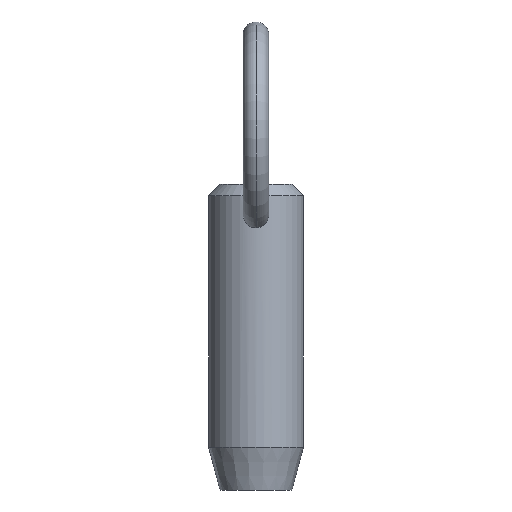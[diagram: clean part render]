
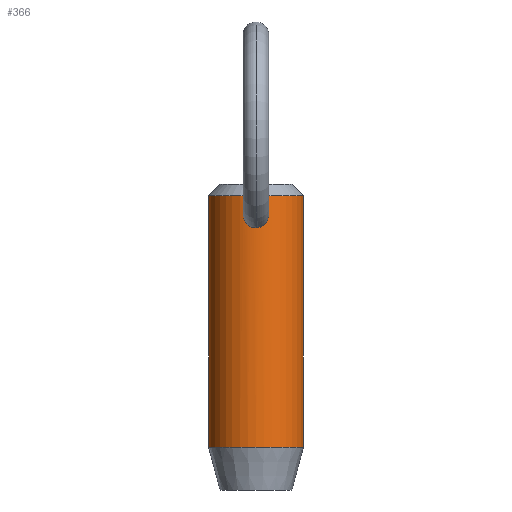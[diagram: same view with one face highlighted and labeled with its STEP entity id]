
A CAD part, front view. The second image highlights one B-rep face of the part: STEP entity #366.
In plain terms, the highlighted cylindrical face has radius 5.55 mm (diameter 11.1 mm), a partial arc.
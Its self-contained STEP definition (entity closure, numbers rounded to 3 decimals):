
#4 = DIRECTION ( 'NONE',  ( -1., 0., 0. ) ) ;
#7 = CARTESIAN_POINT ( 'NONE',  ( -0.107, -5.55, 16.477 ) ) ;
#8 = VERTEX_POINT ( 'NONE', #522 ) ;
#13 = CARTESIAN_POINT ( 'NONE',  ( -1.5, -5.343, 17.953 ) ) ;
#18 = LINE ( 'NONE', #321, #325 ) ;
#24 = CARTESIAN_POINT ( 'NONE',  ( 1.455, -5.356, 17.638 ) ) ;
#30 = DIRECTION ( 'NONE',  ( 0., 0., -1. ) ) ;
#36 = CARTESIAN_POINT ( 'NONE',  ( 0., 0., 20.25 ) ) ;
#37 = VERTEX_POINT ( 'NONE', #401 ) ;
#48 = AXIS2_PLACEMENT_3D ( 'NONE', #365, #247, #4 ) ;
#52 = CARTESIAN_POINT ( 'NONE',  ( -1.362, -5.381, 17.332 ) ) ;
#55 = CARTESIAN_POINT ( 'NONE',  ( -1.44, -5.36, 18.587 ) ) ;
#56 = CARTESIAN_POINT ( 'NONE',  ( 0., -5.55, 19.945 ) ) ;
#57 = EDGE_CURVE ( 'NONE', #181, #8, #18, .T. ) ;
#61 = ORIENTED_EDGE ( 'NONE', *, *, #382, .T. ) ;
#64 = CARTESIAN_POINT ( 'NONE',  ( 0.214, -5.547, 19.928 ) ) ;
#66 = VECTOR ( 'NONE', #523, 1000. ) ;
#67 = CARTESIAN_POINT ( 'NONE',  ( 1.486, -5.347, 18.374 ) ) ;
#69 = EDGE_LOOP ( 'NONE', ( #468, #356 ) ) ;
#82 = CARTESIAN_POINT ( 'NONE',  ( 0., -5.55, 19.945 ) ) ;
#91 = CARTESIAN_POINT ( 'NONE',  ( -0.523, -5.526, 16.566 ) ) ;
#92 = CARTESIAN_POINT ( 'NONE',  ( -0.212, -5.547, 16.488 ) ) ;
#94 = CARTESIAN_POINT ( 'NONE',  ( -0.976, -5.464, 16.831 ) ) ;
#100 = CIRCLE ( 'NONE', #514, 5.55 ) ;
#102 = CARTESIAN_POINT ( 'NONE',  ( 1.44, -5.36, 18.586 ) ) ;
#103 = CARTESIAN_POINT ( 'NONE',  ( 1.477, -5.35, 17.744 ) ) ;
#134 = CARTESIAN_POINT ( 'NONE',  ( -1.455, -5.356, 17.636 ) ) ;
#140 = CARTESIAN_POINT ( 'NONE',  ( -0.785, -5.497, 19.658 ) ) ;
#145 = CARTESIAN_POINT ( 'NONE',  ( 1.363, -5.38, 17.334 ) ) ;
#146 = CARTESIAN_POINT ( 'NONE',  ( 1.26, -5.407, 17.143 ) ) ;
#149 = CARTESIAN_POINT ( 'NONE',  ( 0.107, -5.55, 16.477 ) ) ;
#152 = ORIENTED_EDGE ( 'NONE', *, *, #442, .T. ) ;
#176 = CARTESIAN_POINT ( 'NONE',  ( -1.503, -5.343, 18.059 ) ) ;
#178 = CARTESIAN_POINT ( 'NONE',  ( -1.477, -5.35, 17.742 ) ) ;
#180 = CARTESIAN_POINT ( 'NONE',  ( -0.939, -5.472, 19.51 ) ) ;
#181 = VERTEX_POINT ( 'NONE', #330 ) ;
#182 = CARTESIAN_POINT ( 'NONE',  ( -1.294, -5.398, 18.986 ) ) ;
#185 = CARTESIAN_POINT ( 'NONE',  ( 1.503, -5.343, 18.059 ) ) ;
#189 = CARTESIAN_POINT ( 'NONE',  ( 0.421, -5.535, 16.532 ) ) ;
#196 = EDGE_CURVE ( 'NONE', #249, #419, #393, .T. ) ;
#229 = CARTESIAN_POINT ( 'NONE',  ( 1.194, -5.422, 19.171 ) ) ;
#231 = CARTESIAN_POINT ( 'NONE',  ( 0., -5.55, 19.945 ) ) ;
#243 = CARTESIAN_POINT ( 'NONE',  ( -5.55, 0., 15.2 ) ) ;
#247 = DIRECTION ( 'NONE',  ( 0., 0., 1. ) ) ;
#249 = VERTEX_POINT ( 'NONE', #424 ) ;
#254 = CARTESIAN_POINT ( 'NONE',  ( 0., -5.55, 16.477 ) ) ;
#265 = CARTESIAN_POINT ( 'NONE',  ( -0.807, -5.492, 16.705 ) ) ;
#270 = CARTESIAN_POINT ( 'NONE',  ( 0.213, -5.547, 16.488 ) ) ;
#282 = CARTESIAN_POINT ( 'NONE',  ( -5.55, 0., -9.2 ) ) ;
#283 = LINE ( 'NONE', #243, #66 ) ;
#296 = CIRCLE ( 'NONE', #48, 5.55 ) ;
#298 = CARTESIAN_POINT ( 'NONE',  ( -1.26, -5.407, 17.142 ) ) ;
#300 = CARTESIAN_POINT ( 'NONE',  ( -1.485, -5.348, 18.379 ) ) ;
#301 = CYLINDRICAL_SURFACE ( 'NONE', #348, 5.55 ) ;
#302 = CARTESIAN_POINT ( 'NONE',  ( -0.211, -5.547, 19.929 ) ) ;
#304 = EDGE_CURVE ( 'NONE', #419, #249, #386, .T. ) ;
#305 = CARTESIAN_POINT ( 'NONE',  ( 0.786, -5.497, 19.657 ) ) ;
#309 = CARTESIAN_POINT ( 'NONE',  ( 0.941, -5.471, 19.507 ) ) ;
#321 = CARTESIAN_POINT ( 'NONE',  ( 5.55, 0., 15.2 ) ) ;
#325 = VECTOR ( 'NONE', #30, 1000. ) ;
#330 = CARTESIAN_POINT ( 'NONE',  ( 5.55, 0., 20.25 ) ) ;
#333 = CARTESIAN_POINT ( 'NONE',  ( -0.42, -5.535, 16.532 ) ) ;
#336 = ORIENTED_EDGE ( 'NONE', *, *, #57, .F. ) ;
#345 = CARTESIAN_POINT ( 'NONE',  ( 1.055, -5.449, 16.905 ) ) ;
#348 = AXIS2_PLACEMENT_3D ( 'NONE', #444, #520, #479 ) ;
#351 = CARTESIAN_POINT ( 'NONE',  ( 0.716, -5.504, 16.652 ) ) ;
#356 = ORIENTED_EDGE ( 'NONE', *, *, #196, .T. ) ;
#363 = FACE_OUTER_BOUND ( 'NONE', #397, .T. ) ;
#365 = CARTESIAN_POINT ( 'NONE',  ( 0., 0., -9.2 ) ) ;
#366 = ADVANCED_FACE ( 'NONE', ( #363, #460 ), #301, .T. ) ;
#368 = DIRECTION ( 'NONE',  ( 1., 0., 0. ) ) ;
#374 = CARTESIAN_POINT ( 'NONE',  ( -0.716, -5.504, 16.652 ) ) ;
#382 = EDGE_CURVE ( 'NONE', #181, #37, #100, .T. ) ;
#384 = CARTESIAN_POINT ( 'NONE',  ( -0.106, -5.55, 19.945 ) ) ;
#385 = CARTESIAN_POINT ( 'NONE',  ( -0.513, -5.527, 19.823 ) ) ;
#386 = B_SPLINE_CURVE_WITH_KNOTS ( 'NONE', 3,
 ( #231, #399, #64, #394, #430, #305, #309, #229, #472, #102, #67, #185, #509, #103, #24, #145, #146, #345, #513, #469, #351, #508, #189, #270, #149, #432 ),
 .UNSPECIFIED., .F., .F.,
 ( 4, 2, 2, 2, 2, 2, 2, 2, 2, 2, 2, 2, 4 ),
 ( 0.005, 0.005, 0.005, 0.006, 0.006, 0.007, 0.007, 0.008, 0.008, 0.009, 0.009, 0.009, 0.01 ),
 .UNSPECIFIED. ) ;
#393 = B_SPLINE_CURVE_WITH_KNOTS ( 'NONE', 3,
 ( #254, #7, #92, #333, #91, #374, #265, #94, #427, #298, #52, #134, #178, #13, #176, #300, #55, #182, #464, #180, #140, #385, #462, #302, #384, #56 ),
 .UNSPECIFIED., .F., .F.,
 ( 4, 2, 2, 2, 2, 2, 2, 2, 2, 2, 2, 2, 4 ),
 ( 0.01, 0.01, 0.01, 0.011, 0.011, 0.012, 0.012, 0.012, 0.013, 0.013, 0.014, 0.014, 0.015 ),
 .UNSPECIFIED. ) ;
#394 = CARTESIAN_POINT ( 'NONE',  ( 0.417, -5.535, 19.867 ) ) ;
#397 = EDGE_LOOP ( 'NONE', ( #336, #61, #487, #152 ) ) ;
#399 = CARTESIAN_POINT ( 'NONE',  ( 0.106, -5.55, 19.945 ) ) ;
#401 = CARTESIAN_POINT ( 'NONE',  ( -5.55, 0., 20.25 ) ) ;
#407 = DIRECTION ( 'NONE',  ( 0., 0., -1. ) ) ;
#419 = VERTEX_POINT ( 'NONE', #82 ) ;
#424 = CARTESIAN_POINT ( 'NONE',  ( 0., -5.55, 16.477 ) ) ;
#427 = CARTESIAN_POINT ( 'NONE',  ( -1.054, -5.449, 16.904 ) ) ;
#430 = CARTESIAN_POINT ( 'NONE',  ( 0.515, -5.527, 19.822 ) ) ;
#432 = CARTESIAN_POINT ( 'NONE',  ( 0., -5.55, 16.477 ) ) ;
#442 = EDGE_CURVE ( 'NONE', #448, #8, #296, .T. ) ;
#444 = CARTESIAN_POINT ( 'NONE',  ( 0., 0., 15.2 ) ) ;
#448 = VERTEX_POINT ( 'NONE', #282 ) ;
#451 = EDGE_CURVE ( 'NONE', #37, #448, #283, .T. ) ;
#460 = FACE_BOUND ( 'NONE', #69, .T. ) ;
#462 = CARTESIAN_POINT ( 'NONE',  ( -0.416, -5.535, 19.867 ) ) ;
#464 = CARTESIAN_POINT ( 'NONE',  ( -1.195, -5.421, 19.171 ) ) ;
#468 = ORIENTED_EDGE ( 'NONE', *, *, #304, .T. ) ;
#469 = CARTESIAN_POINT ( 'NONE',  ( 0.807, -5.492, 16.706 ) ) ;
#472 = CARTESIAN_POINT ( 'NONE',  ( 1.295, -5.397, 18.982 ) ) ;
#479 = DIRECTION ( 'NONE',  ( -1., 0., 0. ) ) ;
#487 = ORIENTED_EDGE ( 'NONE', *, *, #451, .T. ) ;
#508 = CARTESIAN_POINT ( 'NONE',  ( 0.523, -5.526, 16.566 ) ) ;
#509 = CARTESIAN_POINT ( 'NONE',  ( 1.5, -5.343, 17.954 ) ) ;
#513 = CARTESIAN_POINT ( 'NONE',  ( 0.977, -5.464, 16.832 ) ) ;
#514 = AXIS2_PLACEMENT_3D ( 'NONE', #36, #407, #368 ) ;
#520 = DIRECTION ( 'NONE',  ( 0., 0., -1. ) ) ;
#522 = CARTESIAN_POINT ( 'NONE',  ( 5.55, 0., -9.2 ) ) ;
#523 = DIRECTION ( 'NONE',  ( 0., 0., -1. ) ) ;
